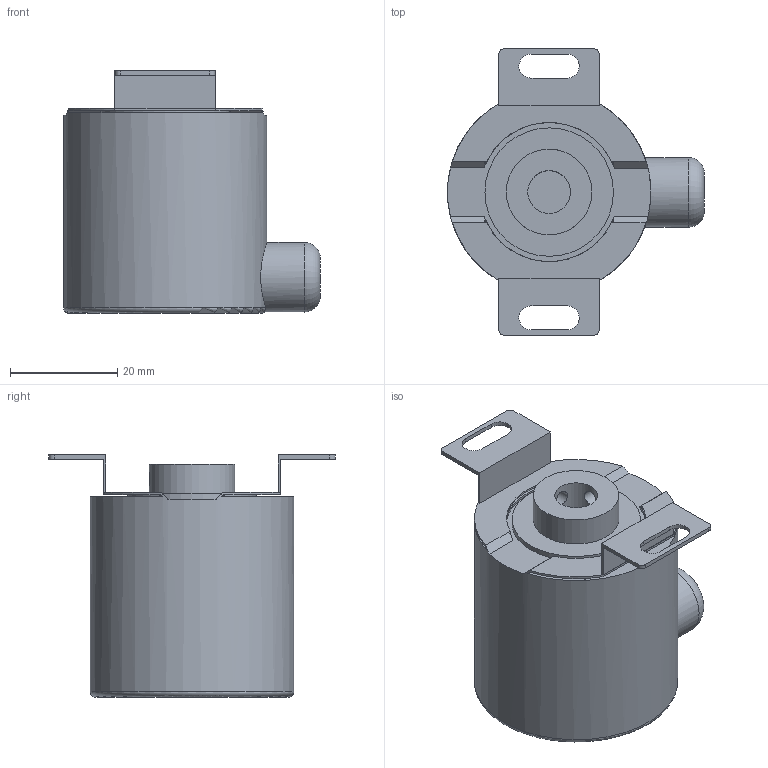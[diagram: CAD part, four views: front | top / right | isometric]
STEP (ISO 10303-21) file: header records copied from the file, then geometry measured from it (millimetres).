
FILE_DESCRIPTION(/* description */ ('Alibre Inc.'),/* implementation_level */ '2;1');
FILE_NAME(/* name */ 'export0',/* time_stamp */ '2013-08-20T10:28:54-06:00',/* author */ (''),/* organization */ (''),/* preprocessor_version */ 'ST-DEVELOPER v14',/* originating_system */ 'Alibre',/* authorisation */ '');
FILE_SCHEMA (('ALIBRE_SCHEMA','CONFIG_CONTROL_DESIGN'));
Length unit declared in the file: centimetre
Products named in the file (1): ID_1
Bounding box: 47.97 x 53.54 x 45.25 mm (x, y, z)
Volume: 44800.5 mm3; surface area: 9874.2 mm2
Topology: 1 solids, 1 shells, 77 faces, 228 edges, 149 vertices
Faces by surface type: plane 52, cylinder 23, torus 2
Full cylindrical faces by diameter (mm): 3 x2, 8 x1, 13 x1, 16 x1, 24 x1, 38 x1
Entity records: 6443 total; most frequent: CARTESIAN_POINT 1199, DIRECTION 535, CONSTRAINTPAIRUV 462, ORIENTED_EDGE 420, REFERENCEDEPENDENTUV 389, VECTOR 310, REFERENCEPOINTUV 289, PERSISTANTTOPOLOGYATTRIBUTE 231
